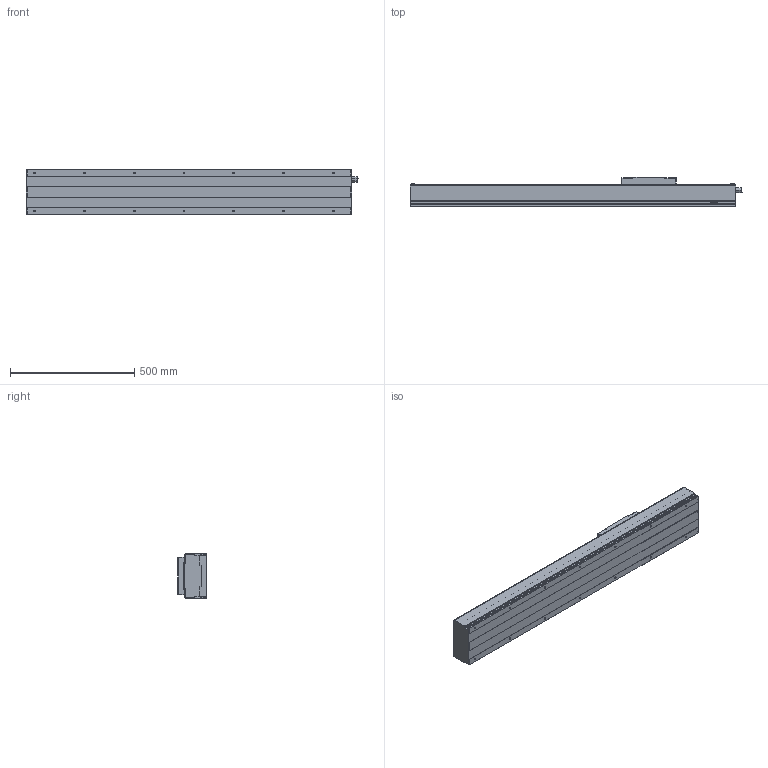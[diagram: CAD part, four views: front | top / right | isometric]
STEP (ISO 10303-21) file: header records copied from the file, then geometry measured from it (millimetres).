
FILE_DESCRIPTION(/* description */ (''),/* implementation_level */ '2;1');
FILE_NAME(/* name */ 'D:\混合母檔20191031\混和母檔\混和母檔\bin\Debug\Download\3D\KS180-10C-800AFI\KS180-10C-800AFI.stp',/* time_stamp */ '2019-11-04T16:15:22+08:00',/* author */ ('user'),/* organization */ (''),/* preprocessor_version */ 'ST-DEVELOPER v16.13',/* originating_system */ 'Autodesk Inventor 2018',/* authorisation */ '');
FILE_SCHEMA (('AUTOMOTIVE_DESIGN { 1 0 10303 214 3 1 1 }'));
Length unit declared in the file: millimetre
Products named in the file (3): KS180-10C-800AFI; KS180-FI; KS180-SL
Assembly tree (2 placements, depth 2):
  KS180-10C-800AFI
    KS180-FI
    KS180-SL
Bounding box: 1334.5 x 118 x 180 mm (x, y, z)
Volume: 7632448.6 mm3; surface area: 1623088.7 mm2
Topology: 4 solids, 8 shells, 738 faces, 1965 edges, 1281 vertices
Faces by surface type: plane 408, bspline 136, cylinder 88, cone 86, torus 16, sphere 4
Full cylindrical faces by diameter (mm): 3.571 x4, 4 x4, 4.134 x4, 4.5 x4, 6 x6, 6.647 x14, 8 x6, 8.016 x1, 8.4 x4, 9.4 x4, 12 x2, 13.1 x1, 15 x1, 18.75 x2, 46 x1, 50 x1
Entity records: 26512 total; most frequent: CARTESIAN_POINT 9342, ORIENTED_EDGE 3676, DIRECTION 3083, EDGE_CURVE 1837, VERTEX_POINT 1254, LINE 1173, VECTOR 1173, AXIS2_PLACEMENT_3D 955
